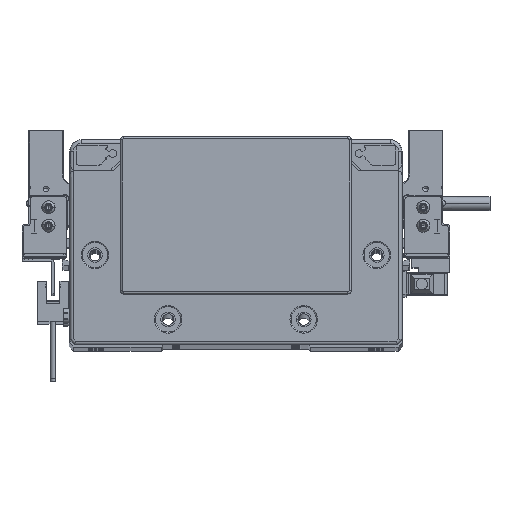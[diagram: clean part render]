
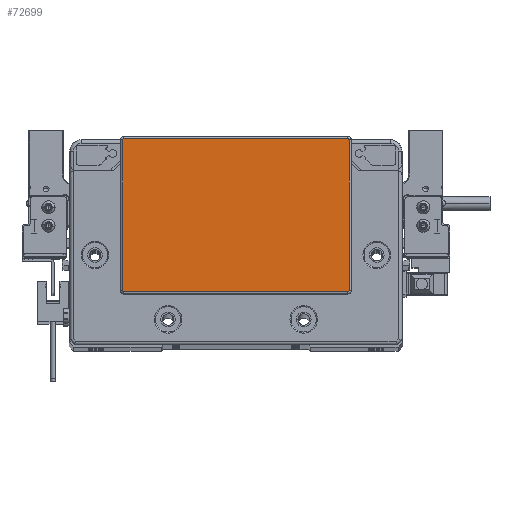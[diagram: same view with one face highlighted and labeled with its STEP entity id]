
A CAD part, top view. The second image highlights one B-rep face of the part: STEP entity #72699.
In plain terms, the highlighted planar face has unit normal (0, 0, 1) as drawn and (0, 0, -1) by its records, which use the part's own axes.
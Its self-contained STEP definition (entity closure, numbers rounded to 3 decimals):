
#1110 = DIRECTION ( 'NONE',  ( -1., 0., 0. ) ) ;
#1148 = DIRECTION ( 'NONE',  ( 1., 0., 0. ) ) ;
#1351 = CARTESIAN_POINT ( 'NONE',  ( 0., 0., -2. ) ) ;
#5009 = ORIENTED_EDGE ( 'NONE', *, *, #75562, .T. ) ;
#6509 = EDGE_CURVE ( 'NONE', #7589, #31674, #29324, .T. ) ;
#6561 = CARTESIAN_POINT ( 'NONE',  ( 49.25, -21.8, -2. ) ) ;
#7589 = VERTEX_POINT ( 'NONE', #79799 ) ;
#7890 = FACE_OUTER_BOUND ( 'NONE', #22993, .T. ) ;
#8789 = CARTESIAN_POINT ( 'NONE',  ( -48.75, -22.3, -2. ) ) ;
#9234 = LINE ( 'NONE', #8789, #59160 ) ;
#10465 = EDGE_CURVE ( 'NONE', #56096, #38712, #37868, .T. ) ;
#10583 = CIRCLE ( 'NONE', #73029, 0.5 ) ;
#11836 = DIRECTION ( 'NONE',  ( 0., 0., -1. ) ) ;
#13945 = DIRECTION ( 'NONE',  ( 0., 0., -1. ) ) ;
#14410 = DIRECTION ( 'NONE',  ( -1., 0., 0. ) ) ;
#15376 = CARTESIAN_POINT ( 'NONE',  ( 49.25, -21.8, -2. ) ) ;
#15729 = CARTESIAN_POINT ( 'NONE',  ( -48.75, -22.3, -2. ) ) ;
#18509 = ORIENTED_EDGE ( 'NONE', *, *, #29108, .T. ) ;
#18788 = DIRECTION ( 'NONE',  ( 0., 0., -1. ) ) ;
#19500 = ORIENTED_EDGE ( 'NONE', *, *, #10465, .T. ) ;
#20013 = CARTESIAN_POINT ( 'NONE',  ( 48.75, 43.8, -2. ) ) ;
#20425 = CARTESIAN_POINT ( 'NONE',  ( -49.25, 43.8, -2. ) ) ;
#22993 = EDGE_LOOP ( 'NONE', ( #86930, #82122, #18509, #5009, #32421, #49268, #19500, #67095 ) ) ;
#23441 = CARTESIAN_POINT ( 'NONE',  ( 48.75, 44.3, -2. ) ) ;
#27439 = DIRECTION ( 'NONE',  ( -1., 0., 0. ) ) ;
#28641 = CARTESIAN_POINT ( 'NONE',  ( 48.75, -22.3, -2. ) ) ;
#29108 = EDGE_CURVE ( 'NONE', #89420, #54440, #9234, .T. ) ;
#29324 = LINE ( 'NONE', #15376, #57977 ) ;
#31674 = VERTEX_POINT ( 'NONE', #6561 ) ;
#32421 = ORIENTED_EDGE ( 'NONE', *, *, #78470, .T. ) ;
#33230 = DIRECTION ( 'NONE',  ( -1., 0., 0. ) ) ;
#34371 = LINE ( 'NONE', #20425, #47846 ) ;
#37291 = AXIS2_PLACEMENT_3D ( 'NONE', #75645, #11836, #33230 ) ;
#37868 = LINE ( 'NONE', #23441, #79469 ) ;
#38712 = VERTEX_POINT ( 'NONE', #46966 ) ;
#40141 = CARTESIAN_POINT ( 'NONE',  ( -49.25, -21.8, -2. ) ) ;
#40927 = DIRECTION ( 'NONE',  ( 0., 0., -1. ) ) ;
#41408 = VERTEX_POINT ( 'NONE', #55021 ) ;
#43555 = CIRCLE ( 'NONE', #64385, 0.5 ) ;
#44147 = CARTESIAN_POINT ( 'NONE',  ( -48.75, 44.3, -2. ) ) ;
#46966 = CARTESIAN_POINT ( 'NONE',  ( 48.75, 44.3, -2. ) ) ;
#47159 = DIRECTION ( 'NONE',  ( -1., 0., 0. ) ) ;
#47846 = VECTOR ( 'NONE', #77264, 1000. ) ;
#49268 = ORIENTED_EDGE ( 'NONE', *, *, #63523, .T. ) ;
#50227 = DIRECTION ( 'NONE',  ( -1., 0., 0. ) ) ;
#50465 = CARTESIAN_POINT ( 'NONE',  ( -48.75, 43.8, -2. ) ) ;
#54440 = VERTEX_POINT ( 'NONE', #15729 ) ;
#55021 = CARTESIAN_POINT ( 'NONE',  ( -49.25, 43.8, -2. ) ) ;
#55125 = CIRCLE ( 'NONE', #37291, 0.5 ) ;
#56096 = VERTEX_POINT ( 'NONE', #44147 ) ;
#57977 = VECTOR ( 'NONE', #85253, 1000. ) ;
#58389 = VERTEX_POINT ( 'NONE', #40141 ) ;
#58735 = AXIS2_PLACEMENT_3D ( 'NONE', #1351, #13945, #14410 ) ;
#59160 = VECTOR ( 'NONE', #50227, 1000. ) ;
#59708 = EDGE_CURVE ( 'NONE', #38712, #7589, #43555, .T. ) ;
#63523 = EDGE_CURVE ( 'NONE', #41408, #56096, #75525, .T. ) ;
#64385 = AXIS2_PLACEMENT_3D ( 'NONE', #20013, #40927, #27439 ) ;
#65809 = DIRECTION ( 'NONE',  ( 0., 0., -1. ) ) ;
#67095 = ORIENTED_EDGE ( 'NONE', *, *, #59708, .T. ) ;
#72699 = ADVANCED_FACE ( 'NONE', ( #7890 ), #77760, .T. ) ;
#73029 = AXIS2_PLACEMENT_3D ( 'NONE', #82603, #18788, #47159 ) ;
#75525 = CIRCLE ( 'NONE', #90366, 0.5 ) ;
#75562 = EDGE_CURVE ( 'NONE', #54440, #58389, #55125, .T. ) ;
#75645 = CARTESIAN_POINT ( 'NONE',  ( -48.75, -21.8, -2. ) ) ;
#77264 = DIRECTION ( 'NONE',  ( 0., 1., 0. ) ) ;
#77760 = PLANE ( 'NONE',  #58735 ) ;
#78470 = EDGE_CURVE ( 'NONE', #58389, #41408, #34371, .T. ) ;
#79469 = VECTOR ( 'NONE', #1148, 1000. ) ;
#79799 = CARTESIAN_POINT ( 'NONE',  ( 49.25, 43.8, -2. ) ) ;
#82122 = ORIENTED_EDGE ( 'NONE', *, *, #89784, .T. ) ;
#82603 = CARTESIAN_POINT ( 'NONE',  ( 48.75, -21.8, -2. ) ) ;
#85253 = DIRECTION ( 'NONE',  ( 0., -1., 0. ) ) ;
#86930 = ORIENTED_EDGE ( 'NONE', *, *, #6509, .T. ) ;
#89420 = VERTEX_POINT ( 'NONE', #28641 ) ;
#89784 = EDGE_CURVE ( 'NONE', #31674, #89420, #10583, .T. ) ;
#90366 = AXIS2_PLACEMENT_3D ( 'NONE', #50465, #65809, #1110 ) ;
